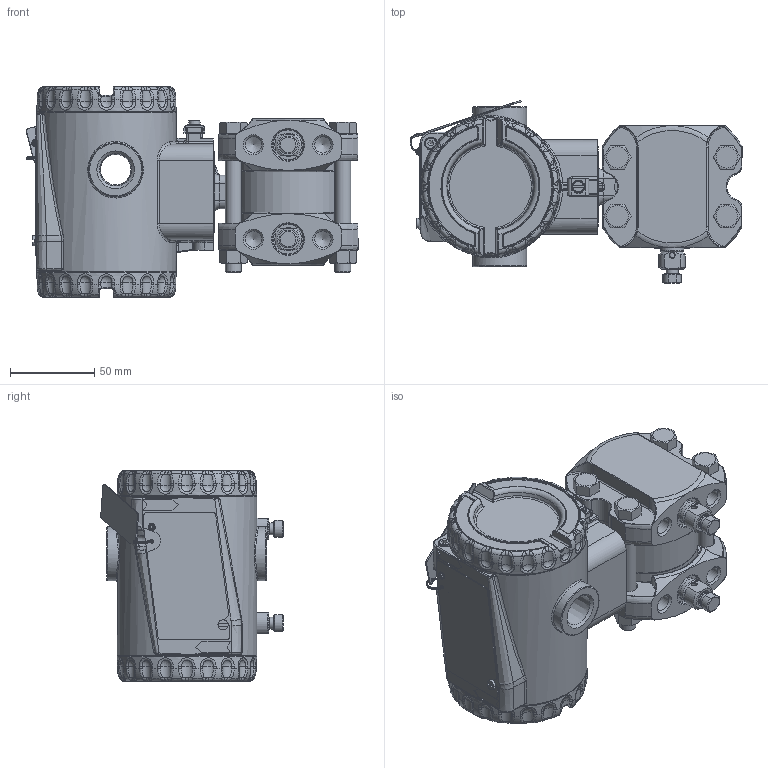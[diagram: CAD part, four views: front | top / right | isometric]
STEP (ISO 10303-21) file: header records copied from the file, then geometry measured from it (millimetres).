
FILE_DESCRIPTION(/* description */ (''),/* implementation_level */ '2;1');
FILE_NAME(/* name */ 'F:\Area\Desenvolvimento_2\Projects\Sensor\projetos\LD400-3d\dimensionais 3D clientes\LD400D4 1-4NPT monel purga oposta.stp',/* time_stamp */ '2023-02-02T10:47:20-03:00',/* author */ ('inventor02'),/* organization */ (''),/* preprocessor_version */ 'ST-DEVELOPER v17',/* originating_system */ 'Autodesk Inventor 2019',/* authorisation */ '');
FILE_SCHEMA (('CONFIG_CONTROL_DESIGN'));
Products named in the file (29): LD400D4 1-4NPT monel purga oposta; Carcaça 400 com tampas e plaqueta sem letras; 101-D-0845-05 carcaça LD400 sem letras; 101-B-3614-03-tampa 400 sem letras; Tampa visor 400 montada sem letras; 101-B-3612-05 tampa visor 400 sem letras; 101-A-6107; oring 2034; 00034775-0; WHW_250; DIN 915 - M6 x 10; Chapa aterramento externo; 201-A-1771-02 inserto terra recartilhado; AS 1969 - ST4,2; ISO 1207 - M4 x 8; ANSI B18.3.1M - M4x0,7 x 8; Subconjunto plaqueta 400; plaqueta 400 em branco; Parafuso da Plaqueta; Rebite da Plaqueta; 096-A-0169-03; 101-A-0502-01; diferencial FX4 monel purga oposta; involucro fx4 apos a usinagem final; 101-C-0040-05 monel barra 7-16; Paraf. 3-8 x 16 UNC; Porca 3-8 x 16 UNC; 075-B-0046-purgador; Sangria
Assembly tree (38 placements, depth 4):
  LD400D4 1-4NPT monel purga oposta
    Carcaça 400 com tampas e plaqueta sem letras
      101-D-0845-05 carcaça LD400 sem letras
      101-B-3614-03-tampa 400 sem letras
      Tampa visor 400 montada sem letras
        101-B-3612-05 tampa visor 400 sem letras
        101-A-6107
        oring 2034
        00034775-0
        WHW_250
      DIN 915 - M6 x 10
      Chapa aterramento externo
      201-A-1771-02 inserto terra recartilhado
      AS 1969 - ST4,2
      ISO 1207 - M4 x 8
      ANSI B18.3.1M - M4x0,7 x 8  x2
      Subconjunto plaqueta 400
        plaqueta 400 em branco
        Parafuso da Plaqueta
        Rebite da Plaqueta
        096-A-0169-03
        101-A-0502-01
    diferencial FX4 monel purga oposta
      involucro fx4 apos a usinagem final
      101-C-0040-05 monel barra 7-16  x2
      Paraf. 3-8 x 16 UNC  x4
      Porca 3-8 x 16 UNC  x4
      075-B-0046-purgador  x2
      Sangria  x2
Bounding box: 197.25 x 108.39 x 125 mm (x, y, z)
Volume: 667581.6 mm3; surface area: 241139.1 mm2
Topology: 34 solids, 34 shells, 2295 faces, 5663 edges, 3429 vertices
Faces by surface type: plane 607, bspline 527, cylinder 507, torus 354, cone 247, sphere 53
Full cylindrical faces by diameter (mm): 2 x2, 2.1 x1, 2.2 x1, 2.459 x3, 2.7 x1, 3 x5, 3.242 x3, 3.571 x1, 4 x4, 4.3 x2, 4.4 x1, 4.917 x1, 5 x4, 5.5 x2, 6 x2, 6.1 x2, 6.2 x1, 6.8 x2, 7 x4, 7.6 x2, 7.798 x4, 8 x2, 9.525 x4, 9.728 x8, 10.5 x8, 10.719 x4, 12 x2, 13.8 x2, 14 x1, 18.3 x2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
Entity records: 75711 total; most frequent: CARTESIAN_POINT 30460, ORIENTED_EDGE 9496, DIRECTION 9029, EDGE_CURVE 4748, AXIS2_PLACEMENT_3D 3800, VERTEX_POINT 2878, CIRCLE 2184, EDGE_LOOP 2046
